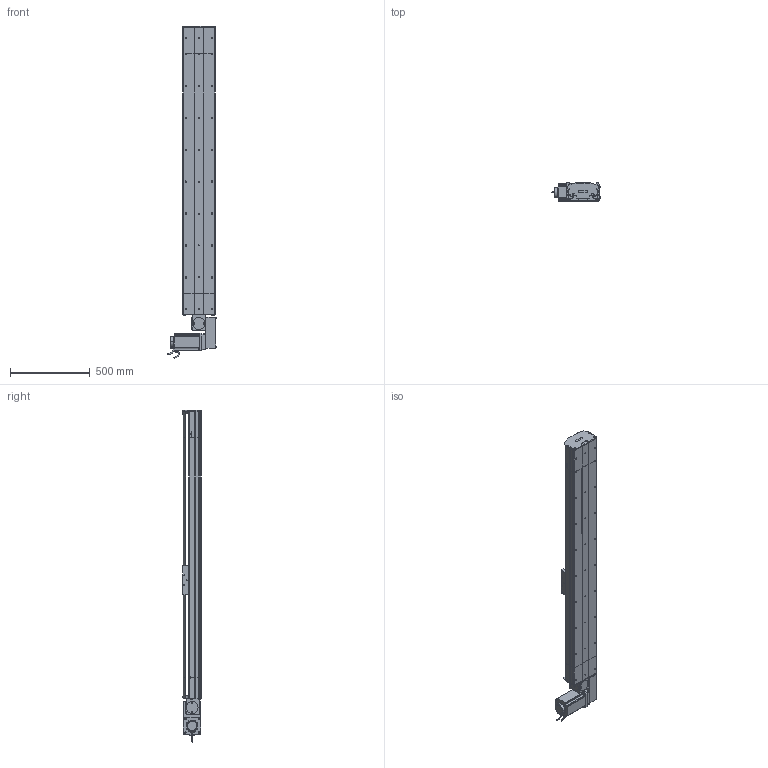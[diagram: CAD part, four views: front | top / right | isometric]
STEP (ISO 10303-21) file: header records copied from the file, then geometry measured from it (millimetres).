
FILE_DESCRIPTION (( 'STEP AP214' ), '1' );
FILE_NAME ('D20 TBH LH S1500.STEP', '2010-07-01T07:26:14', ( 'Conseil Régional Haute-Normandie' ), ( 'Conseil Régional Haute-Normandie' ), 'SwSTEP 2.0', 'SolidWorks 2010', '' );
FILE_SCHEMA (( 'AUTOMOTIVE_DESIGN' ));
Length unit declared in the file: millimetre
Products named in the file (40): Course B L1500_Default; guide D20B; Chariot D20B; poulie tail D20_Default; corpl tail D20 +100_Default; tail D20+100_Default; couvercle tail D20_Default; Couroie tail D20_Default; plaque de  bout tail D20_Default; vis M5 L8 90°_Default; vis M5 L25_Default; vis M5 L12_Default; tete d''axe poulie D20B; rail tail D20; corp D20 S1500_Default; head LH_Default; rail head D20; poulie head D20_Default; vis M8 L12_Default; chariot D20B_Default; rail + couroie  D20 S1500; corpl head D20_Default; cache arbre D20_Default; codeur 110BLDC170A-630x; Plaque racord D20LH_Default; plaque de  bout head D20B LH_Default; cache D20_Default; couroie_Default; Renvoi LH D20_Default; Conecteur2_Default; vis M5 L5_Default; vis M5 L70_Default; Moteur motionking 110BLDC170A-640x; corps 110BLDC170A-630x; avant 110BLDC170A-630x; Conecteur_Default; couvercle head D20_Default; D20 TBH LH S1500; clavette; couvercle D20 S1500_Default
Assembly tree (71 placements, depth 4):
  D20 TBH LH S1500
    Course B L1500_Default
      couvercle D20 S1500_Default
      rail + couroie  D20 S1500
      corp D20 S1500_Default
    tail D20+100_Default
      plaque de  bout tail D20_Default
      vis M5 L12_Default  x4
      vis M5 L25_Default  x2
      corpl tail D20 +100_Default
      Couroie tail D20_Default
      rail tail D20
      poulie tail D20_Default
      couvercle tail D20_Default
      vis M5 L8 90°_Default  x2
      tete d''axe poulie D20B
    head LH_Default
      corpl head D20_Default
      vis M8 L12_Default  x4
      vis M5 L5_Default  x4
      vis M5 L12_Default  x10
      couroie_Default
      vis M5 L70_Default  x4
      Plaque racord D20LH_Default
      cache D20_Default  x2
      poulie head D20_Default
      Moteur motionking 110BLDC170A-640x
        clavette
        Conecteur2_Default
        codeur 110BLDC170A-630x
        corps 110BLDC170A-630x
        Conecteur_Default
        avant 110BLDC170A-630x
      rail head D20
      vis M5 L25_Default  x2
      plaque de  bout head D20B LH_Default
      Renvoi LH D20_Default
      couvercle head D20_Default
      cache arbre D20_Default
    chariot D20B_Default
      Chariot D20B
      vis M5 L12_Default  x4
      guide D20B  x2
Bounding box: 304.2 x 115.7 x 2080 mm (x, y, z)
Volume: 16865284.9 mm3; surface area: 3989747.4 mm2
Topology: 95 solids, 95 shells, 2745 faces, 6921 edges, 4465 vertices
Faces by surface type: plane 1626, cylinder 795, bspline 136, cone 99, torus 89
Entity records: 86248 total; most frequent: CARTESIAN_POINT 27527, ORIENTED_EDGE 10498, DIRECTION 9928, EDGE_CURVE 5249, VERTEX_POINT 3451, LINE 3432, VECTOR 3432, AXIS2_PLACEMENT_3D 3248
